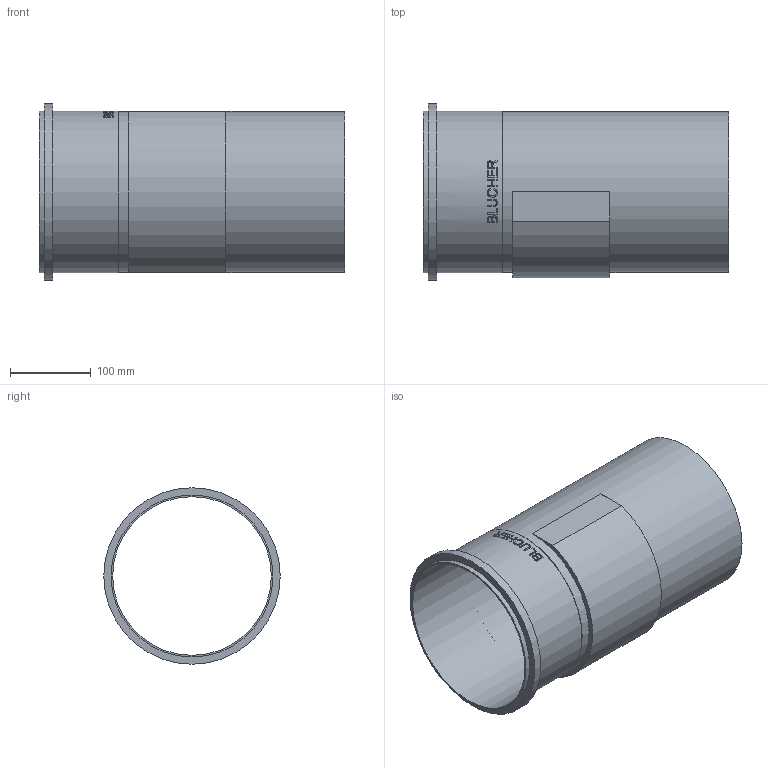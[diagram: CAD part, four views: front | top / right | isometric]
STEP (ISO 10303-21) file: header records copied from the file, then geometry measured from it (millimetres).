
FILE_DESCRIPTION((''),'2;1');
FILE_NAME('I:\WATTS\3D_CAD\3D_CAD_Models\Blucher_Drains\Fittings\Access Fittings\WebsiteFiles\3D\STEP\AP-8-316.stp','2009-12-22T10:26:40',('menesek'),(''),'Autodesk Inventor 2010','Autodesk Inventor 2010','');
FILE_SCHEMA(('AUTOMOTIVE_DESIGN { 1 0 10303 214 1 1 1 1 }'));
Length unit declared in the file: inch
Products named in the file (1): AP-8-316
Bounding box: 379.54 x 218.95 x 218.95 mm (x, y, z)
Volume: 666364.4 mm3; surface area: 494256.6 mm2
Topology: 1 solids, 1 shells, 113 faces, 291 edges, 194 vertices
Faces by surface type: plane 63, bspline 34, cylinder 16
Full cylindrical faces by diameter (mm): 196.85 x1, 199.898 x1, 200.914 x2, 218.948 x1
Entity records: 14280 total; most frequent: CARTESIAN_POINT 11781, ORIENTED_EDGE 572, DIRECTION 382, EDGE_CURVE 286, VERTEX_POINT 194, EDGE_LOOP 134, AXIS2_PLACEMENT_3D 129, VECTOR 124
